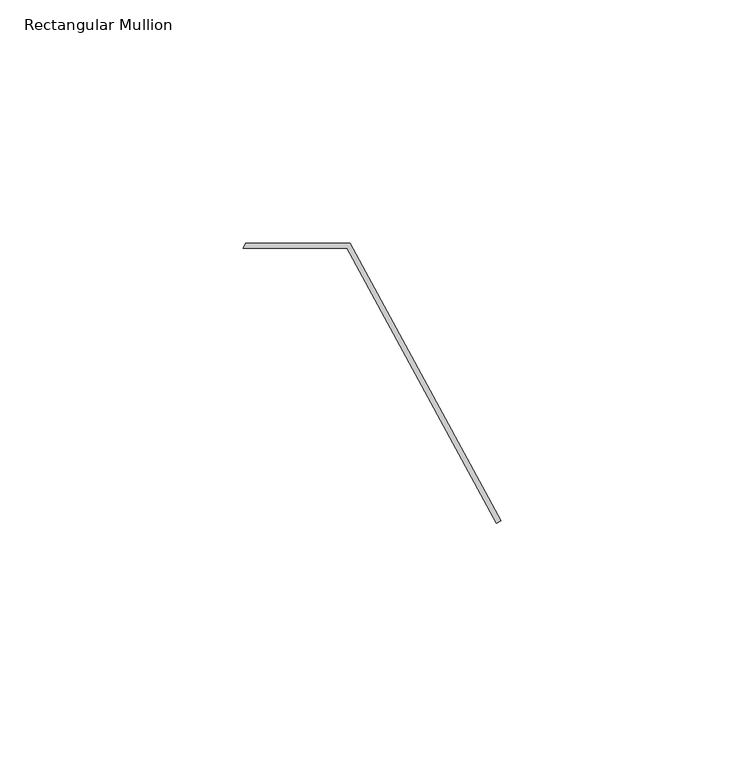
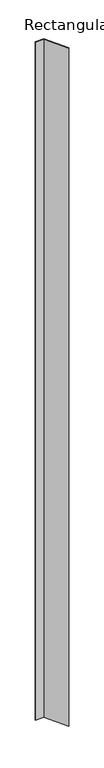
"""IFC4 building model written with IfcOpenShell, lengths in millimetres: member geometry, Rectangular Mullion : CD_NINELINE_Pleat End Short."""

from ifc_helpers import new_model, si_unit, frame, origin, place, context, project, spatial, polyline, outline, extrude, source, transform, mapped, element, save


def rectangular_mullion_4c5ea910(model_context):
    return source(origin(), model_context, "Body", "SweptSolid", [
        extrude(outline(polyline([(-0.7389709, 0.0), (20.7267709, 0.0), (51.7416659, -57.1233427), (50.8616244, -57.6011579), (20.1297031, -1.0), (-1.281917, -1.0), (-0.7389709, 0.0)])), frame((0.0, 0.0, -1812.9375), z_axis=(0.0, 0.0, 1.0), x_axis=(1.0, 0.0, 0.0)), (0.0, 0.0, 1.0), 1812.9375),
    ])


if __name__ == "__main__":
    model = new_model("IFC4")
    model_context = context("Model", 3, world=origin())
    ifc_project = project(units=[si_unit("LENGTHUNIT", "METRE", prefix="MILLI")], contexts=[model_context])
    site = spatial("IfcSite", under=ifc_project)
    building = spatial("IfcBuilding", under=site)
    placement = place(None, origin())
    rectangular_mullion_shape = rectangular_mullion_4c5ea910(model_context)
    element("IfcMember", 1, ObjectType="Rectangular Mullion : CD_NINELINE_Pleat End Short", at=placement, inside=building, context=model_context, shape_type="MappedRepresentation", body=[
        mapped(rectangular_mullion_shape, transform((0.0, 0.0, 0.0), x_axis=(1.0, 0.0, 0.0), y_axis=(0.0, 1.0, 0.0), z_axis=(0.0, 0.0, 1.0))),
    ])
    save(model, "model.ifc")
